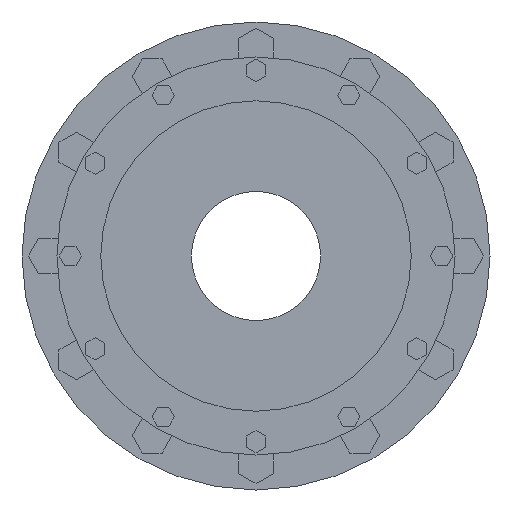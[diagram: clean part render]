
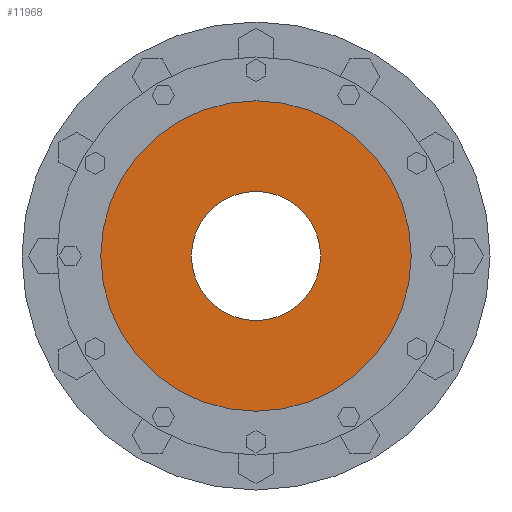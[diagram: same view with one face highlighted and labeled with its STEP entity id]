
A CAD part, left-side view. The second image highlights one B-rep face of the part: STEP entity #11968.
In plain terms, the highlighted planar face has unit normal (-1, 0, 0).
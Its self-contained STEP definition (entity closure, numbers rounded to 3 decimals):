
#11666=CARTESIAN_POINT('',(-226.,0.,0.));
#11667=DIRECTION('',(1.,0.,0.));
#11668=DIRECTION('',(0.,1.,0.));
#11669=AXIS2_PLACEMENT_3D('',#11666,#11667,#11668);
#11745=CARTESIAN_POINT('',(-226.,0.,0.));
#11746=DIRECTION('',(-1.,0.,0.));
#11747=DIRECTION('',(0.,1.,0.));
#11748=AXIS2_PLACEMENT_3D('',#11745,#11746,#11747);
#11750=CARTESIAN_POINT('',(-226.,0.,0.));
#11751=DIRECTION('',(1.,0.,0.));
#11752=DIRECTION('',(0.,1.,0.));
#11753=AXIS2_PLACEMENT_3D('',#11750,#11751,#11752);
#11764=CARTESIAN_POINT('',(-226.,0.,0.));
#11765=DIRECTION('',(-1.,0.,0.));
#11766=DIRECTION('',(0.,1.,0.));
#11767=AXIS2_PLACEMENT_3D('',#11764,#11765,#11766);
#11773=CARTESIAN_POINT('',(-226.,60.,0.));
#11774=CARTESIAN_POINT('',(-226.,-60.,0.));
#11775=VERTEX_POINT('',#11773);
#11776=VERTEX_POINT('',#11774);
#11777=CARTESIAN_POINT('',(-226.,144.25,0.));
#11778=CARTESIAN_POINT('',(-226.,-144.25,0.));
#11779=VERTEX_POINT('',#11777);
#11780=VERTEX_POINT('',#11778);
#11954=CARTESIAN_POINT('',(-226.,0.,0.));
#11955=DIRECTION('',(1.,0.,0.));
#11956=DIRECTION('',(0.,-1.,0.));
#11957=AXIS2_PLACEMENT_3D('',#11954,#11955,#11956);
#11958=PLANE('',#11957);
#11959=ORIENTED_EDGE('',*,*,#11936,.F.);
#11960=ORIENTED_EDGE('',*,*,#11949,.T.);
#11961=EDGE_LOOP('',(#11959,#11960));
#11962=FACE_OUTER_BOUND('',#11961,.F.);
#11963=ORIENTED_EDGE('',*,*,#11814,.F.);
#11965=ORIENTED_EDGE('',*,*,#11964,.T.);
#11966=EDGE_LOOP('',(#11963,#11965));
#11967=FACE_BOUND('',#11966,.F.);
#11968=ADVANCED_FACE('',(#11962,#11967),#11958,.F.);
#11670=CIRCLE('',#11669,60.);
#11749=CIRCLE('',#11748,144.25);
#11754=CIRCLE('',#11753,144.25);
#11768=CIRCLE('',#11767,60.);
#11814=EDGE_CURVE('',#11775,#11776,#11670,.T.);
#11936=EDGE_CURVE('',#11779,#11780,#11749,.T.);
#11949=EDGE_CURVE('',#11779,#11780,#11754,.T.);
#11964=EDGE_CURVE('',#11775,#11776,#11768,.T.);
